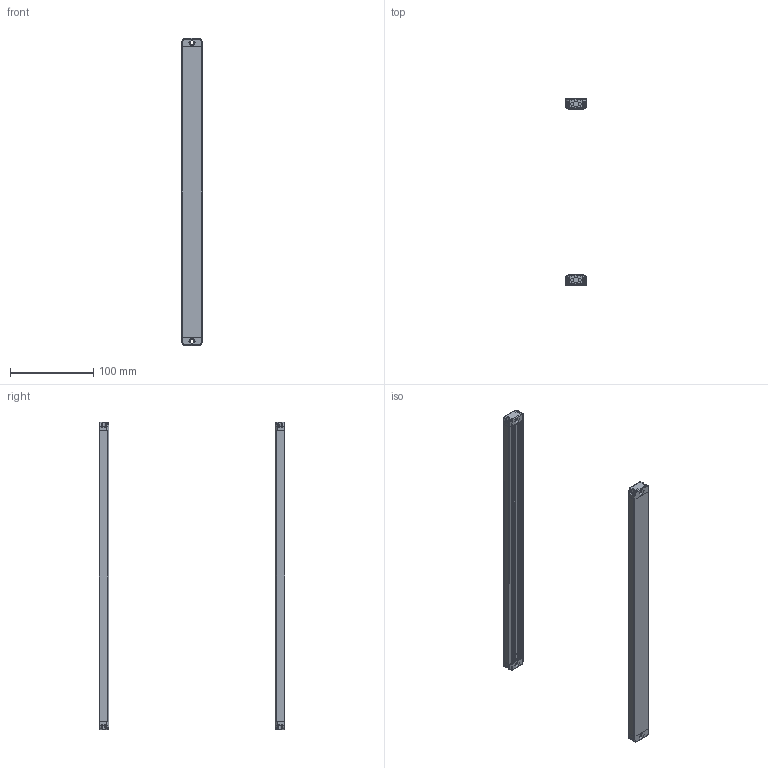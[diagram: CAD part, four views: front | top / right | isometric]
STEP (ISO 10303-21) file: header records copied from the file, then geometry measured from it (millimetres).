
FILE_DESCRIPTION (( 'STEP AP203' ), '1' );
FILE_NAME ('ZDB1820-350.STEP', '2022-08-31T03:10:18', ( 'Windows 蚚誧' ), ( 'Organization' ), 'SwSTEP 2.0', 'SolidWorks 2020', '' );
FILE_SCHEMA (( 'CONFIG_CONTROL_DESIGN' ));
Length unit declared in the file: millimetre
Products named in the file (4): ZDB1820-350; 傷裔衵; 媼啃3臏倰第; 傷裔酘諉彶
Assembly tree (6 placements, depth 2):
  ZDB1820-350
    傷裔衵  x2
    傷裔酘諉彶  x2
    媼啃3臏倰第  x2
Bounding box: 25 x 224 x 370 mm (x, y, z)
Volume: 72371.9 mm3; surface area: 116318.2 mm2
Topology: 6 solids, 6 shells, 650 faces, 1758 edges, 1124 vertices
Faces by surface type: plane 406, cylinder 188, torus 32, bspline 16, sphere 8
Entity records: 11427 total; most frequent: CARTESIAN_POINT 2721, ORIENTED_EDGE 1750, DIRECTION 1687, EDGE_CURVE 875, VECTOR 631, LINE 631, VERTEX_POINT 562, AXIS2_PLACEMENT_3D 528
